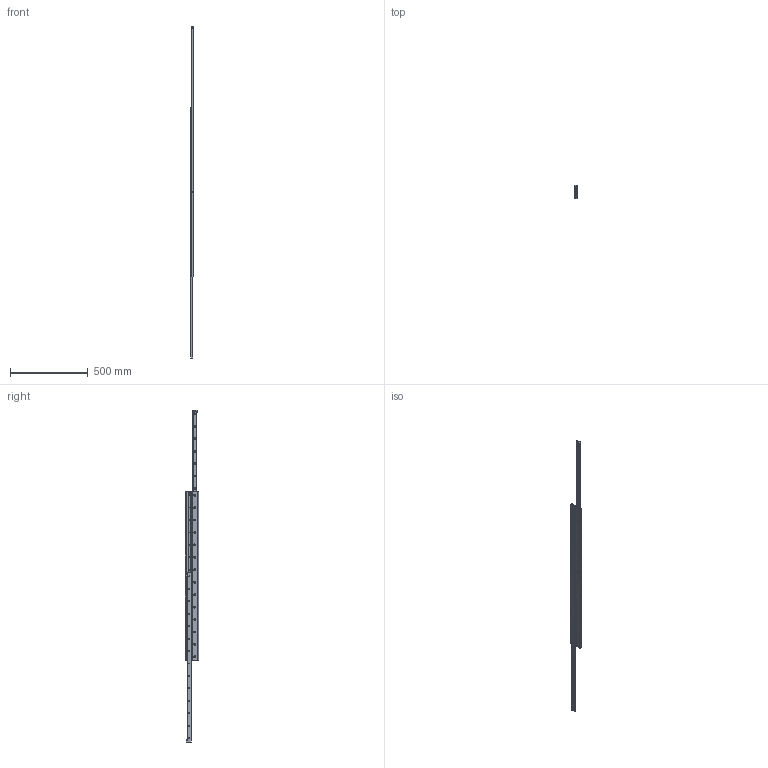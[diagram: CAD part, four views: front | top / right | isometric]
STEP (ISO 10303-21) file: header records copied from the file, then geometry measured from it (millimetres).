
FILE_DESCRIPTION (( 'STEP AP203' ), '1' );
FILE_NAME ('L1984.28D-1090.step', '2018-07-03T12:15:57', ( '' ), ( '' ), 'SwSTEP 2.0', 'SolidWorks 2017', '' );
FILE_SCHEMA (( 'CONFIG_CONTROL_DESIGN' ));
Length unit declared in the file: millimetre
Products named in the file (5): L1984.28D-1090; Part3_L1984.28D-1090; Part2_L1984.28D-1090; Part1_L1984.28D-1090; Part0_L1984.28D-1090
Assembly tree (7 placements, depth 2):
  L1984.28D-1090
    Part0_L1984.28D-1090
    Part2_L1984.28D-1090  x2
    Part1_L1984.28D-1090  x2
    Part3_L1984.28D-1090  x2
Bounding box: 17 x 84 x 2136 mm (x, y, z)
Volume: 934355.4 mm3; surface area: 642435 mm2
Topology: 7 solids, 7 shells, 692 faces, 1750 edges, 1164 vertices
Faces by surface type: plane 454, cylinder 126, cone 112
Entity records: 15776 total; most frequent: CARTESIAN_POINT 2630, DIRECTION 2609, ORIENTED_EDGE 2538, EDGE_CURVE 1269, LINE 963, VECTOR 963, VERTEX_POINT 844, AXIS2_PLACEMENT_3D 823
